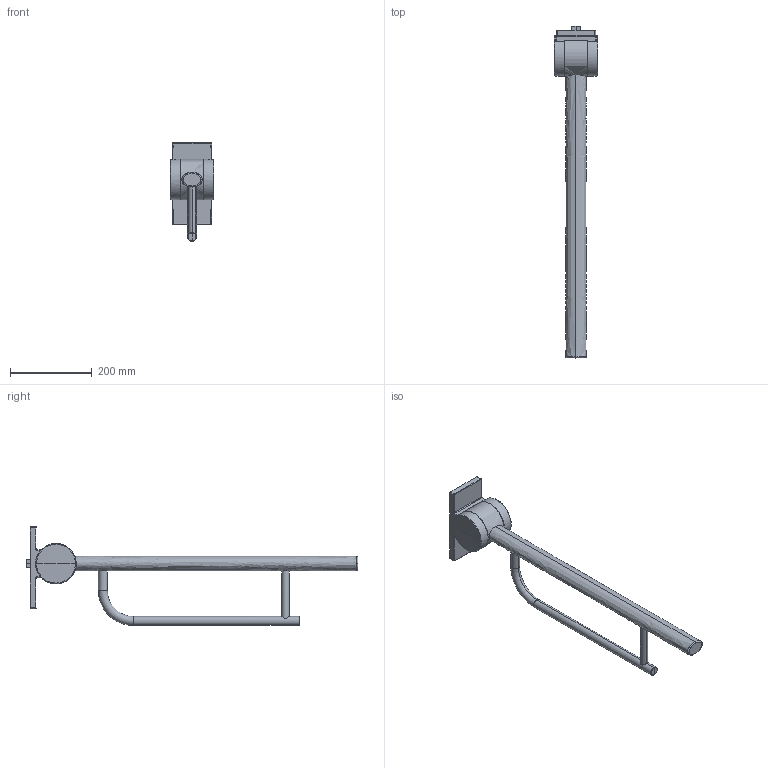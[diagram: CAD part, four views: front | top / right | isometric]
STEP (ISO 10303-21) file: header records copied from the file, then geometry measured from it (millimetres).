
FILE_DESCRIPTION((''),'2;1');
FILE_NAME('S6360_3DPL','2016-01-11T',('RibentsovV'),('AMERICAN STANDARD B&K'),'PRO/ENGINEER BY PARAMETRIC TECHNOLOGY CORPORATION, 2011330','PRO/ENGINEER BY PARAMETRIC TECHNOLOGY CORPORATION, 2011330','');
FILE_SCHEMA(('CONFIG_CONTROL_DESIGN'));
Length unit declared in the file: millimetre
Products named in the file (1): S6360_3DPL
Bounding box: 107.2 x 810 x 241.5 mm (x, y, z)
Volume: 2320616.7 mm3; surface area: 225565.7 mm2
Topology: 1 solids, 4 shells, 128 faces, 335 edges, 205 vertices
Faces by surface type: bspline 60, cylinder 26, plane 15, extrusion 11, torus 10, sphere 6
Entity records: 6298 total; most frequent: CARTESIAN_POINT 3584, ORIENTED_EDGE 646, DIRECTION 425, EDGE_CURVE 329, VERTEX_POINT 205, AXIS2_PLACEMENT_3D 166, B_SPLINE_CURVE_WITH_KNOTS 150, EDGE_LOOP 129
